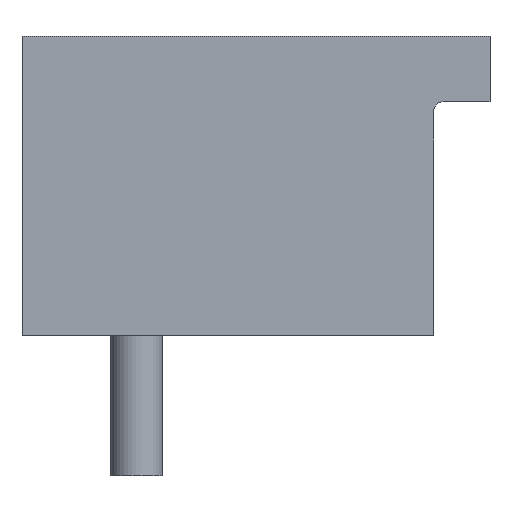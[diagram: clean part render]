
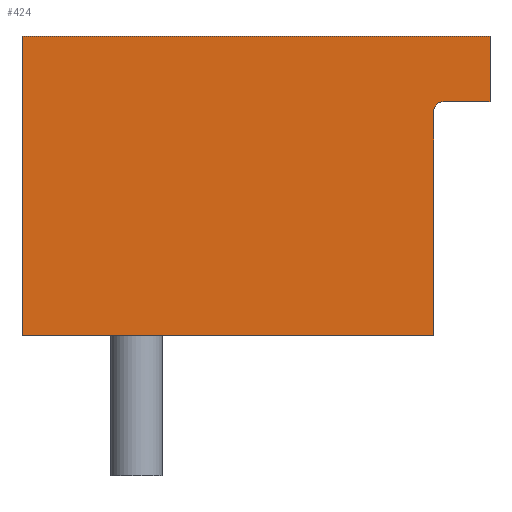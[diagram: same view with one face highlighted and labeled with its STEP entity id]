
A CAD part, front view. The second image highlights one B-rep face of the part: STEP entity #424.
In plain terms, the highlighted planar face has unit normal (0, -1, 0).
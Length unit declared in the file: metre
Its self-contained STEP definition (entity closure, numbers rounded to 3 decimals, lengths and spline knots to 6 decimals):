
#17=PLANE('',#466);
#32=CIRCLE('',#459,0.001);
#98=ORIENTED_EDGE('',*,*,#205,.T.);
#99=ORIENTED_EDGE('',*,*,#206,.F.);
#100=ORIENTED_EDGE('',*,*,#175,.F.);
#101=ORIENTED_EDGE('',*,*,#170,.F.);
#102=ORIENTED_EDGE('',*,*,#207,.F.);
#103=ORIENTED_EDGE('',*,*,#199,.F.);
#104=ORIENTED_EDGE('',*,*,#180,.T.);
#170=EDGE_CURVE('',#226,#227,#264,.T.);
#175=EDGE_CURVE('',#227,#229,#32,.F.);
#180=EDGE_CURVE('',#235,#234,#271,.T.);
#199=EDGE_CURVE('',#235,#250,#288,.T.);
#205=EDGE_CURVE('',#234,#253,#294,.T.);
#206=EDGE_CURVE('',#229,#253,#295,.T.);
#207=EDGE_CURVE('',#250,#226,#296,.T.);
#226=VERTEX_POINT('',#629);
#227=VERTEX_POINT('',#631);
#229=VERTEX_POINT('',#637);
#234=VERTEX_POINT('',#653);
#235=VERTEX_POINT('',#655);
#250=VERTEX_POINT('',#691);
#253=VERTEX_POINT('',#702);
#264=LINE('',#630,#311);
#271=LINE('',#654,#318);
#288=LINE('',#690,#335);
#294=LINE('',#701,#341);
#295=LINE('',#703,#342);
#296=LINE('',#704,#343);
#311=VECTOR('',#501,1.);
#318=VECTOR('',#516,1.);
#335=VECTOR('',#541,1.);
#341=VECTOR('',#551,1.);
#342=VECTOR('',#552,1.);
#343=VECTOR('',#553,1.);
#362=EDGE_LOOP('',(#98,#99,#100,#101,#102,#103,#104));
#391=FACE_BOUND('',#362,.T.);
#424=ADVANCED_FACE('',(#391),#17,.F.);
#459=AXIS2_PLACEMENT_3D('',#643,#508,#509);
#466=AXIS2_PLACEMENT_3D('',#700,#549,#550);
#501=DIRECTION('',(-1.,0.,0.));
#508=DIRECTION('',(0.,1.,0.));
#509=DIRECTION('',(0.,0.,1.));
#516=DIRECTION('',(0.,0.,-1.));
#541=DIRECTION('',(1.,0.,0.));
#549=DIRECTION('',(0.,1.,0.));
#550=DIRECTION('',(0.,0.,1.));
#551=DIRECTION('',(1.,0.,0.));
#552=DIRECTION('',(0.,0.,-1.));
#553=DIRECTION('',(0.,0.,-1.));
#629=CARTESIAN_POINT('',(0.028035,-0.012,0.021));
#630=CARTESIAN_POINT('',(0.028035,-0.012,0.021));
#631=CARTESIAN_POINT('',(0.023035,-0.012,0.021));
#637=CARTESIAN_POINT('',(0.022035,-0.012,0.02));
#643=CARTESIAN_POINT('',(0.023035,-0.012,0.02));
#653=CARTESIAN_POINT('',(-0.021965,-0.012,-0.004));
#654=CARTESIAN_POINT('',(-0.021965,-0.012,0.028));
#655=CARTESIAN_POINT('',(-0.021965,-0.012,0.028));
#690=CARTESIAN_POINT('',(0.000035,-0.012,0.028));
#691=CARTESIAN_POINT('',(0.028035,-0.012,0.028));
#700=CARTESIAN_POINT('',(0.000035,-0.012,0.028));
#701=CARTESIAN_POINT('',(0.000035,-0.012,-0.004));
#702=CARTESIAN_POINT('',(0.022035,-0.012,-0.004));
#703=CARTESIAN_POINT('',(0.022035,-0.012,0.028));
#704=CARTESIAN_POINT('',(0.028035,-0.012,0.028));
